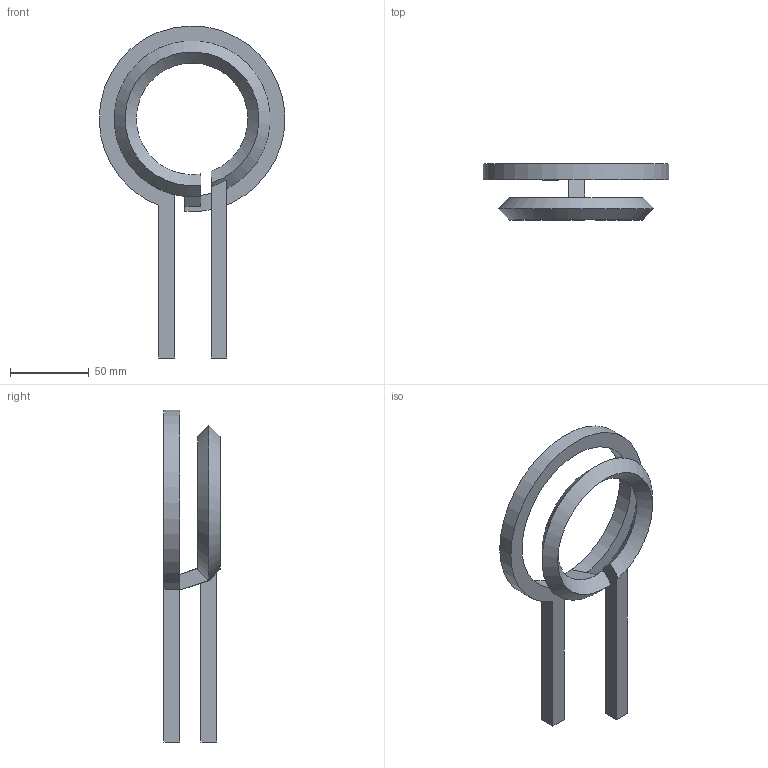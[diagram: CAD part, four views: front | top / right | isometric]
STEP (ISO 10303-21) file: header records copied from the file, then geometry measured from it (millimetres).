
FILE_DESCRIPTION(/* description */ ('Open CASCADE Model'),/* implementation_level */ '2;1');
FILE_NAME(/* name */ 'C:\Users\Alvis\Desktop\inudctor final.stp',/* time_stamp */ '2019-06-27T23:43:33+03:00',/* author */ ('Alvis'),/* organization */ ('Open CASCADE'),/* preprocessor_version */ 'ST-DEVELOPER v17.2',/* originating_system */ 'Autodesk Inventor 2019',/* authorisation */ 'Unknown');
FILE_SCHEMA (('AUTOMOTIVE_DESIGN { 1 0 10303 214 3 1 1 }'));
Length unit declared in the file: metre
Products named in the file (1): inudctor simplified
Bounding box: 117.88 x 35.57 x 210.88 mm (x, y, z)
Volume: 81635 mm3; surface area: 32819.8 mm2
Topology: 1 solids, 1 shells, 25 faces, 67 edges, 44 vertices
Faces by surface type: plane 19, cone 4, cylinder 2
Entity records: 804 total; most frequent: CARTESIAN_POINT 173, ORIENTED_EDGE 134, DIRECTION 115, EDGE_CURVE 67, VERTEX_POINT 44, AXIS2_PLACEMENT_3D 39, LINE 37, VECTOR 37
